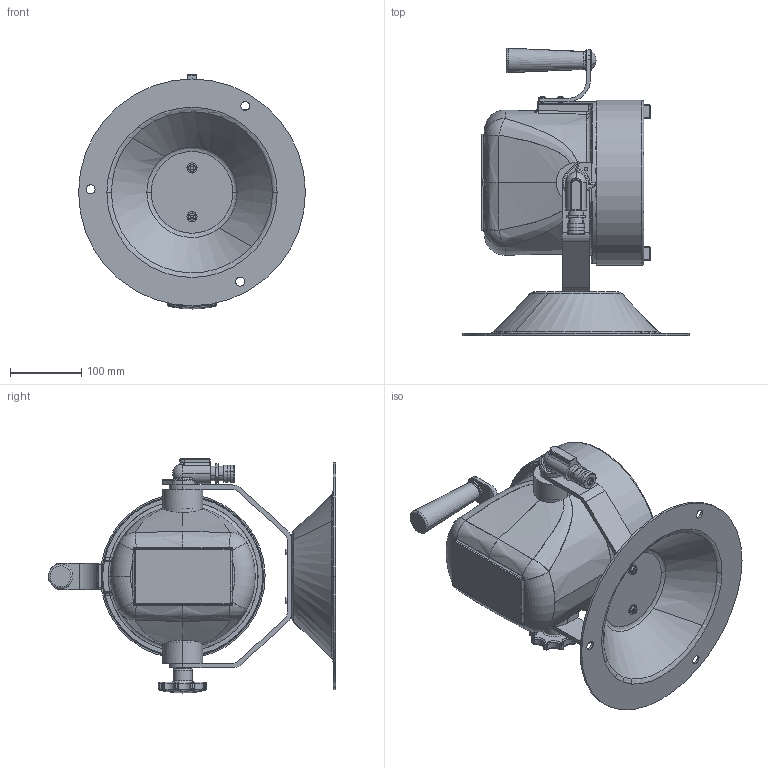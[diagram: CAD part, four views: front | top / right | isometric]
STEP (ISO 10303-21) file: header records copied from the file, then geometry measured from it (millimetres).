
FILE_DESCRIPTION (( 'STEP AP214' ), '1' );
FILE_NAME ('EPL-BS-70.STEP', '2016-05-23T13:50:21', ( '' ), ( '' ), 'SwSTEP 2.0', 'SolidWorks 2015', '' );
FILE_SCHEMA (( 'AUTOMOTIVE_DESIGN' ));
Length unit declared in the file: inch
Products named in the file (26): EPL-BS-70 Pipe Elbow; EPL-BS-70 Reflector; flat washer type b regular_ai_Regular FW 0.19; EPL-BS-70 Front Cover; EPL-BS-70 Bulb; Round Base; EPL-BS-70 Light Holder; EPL-BS-70 Square Hole Washer; EPL-BS-70 Light Holder Mount; round head short square neck bolt_ai_RHSSNBOLT 0.5-13x0.75x0.75-N; EPL-BS-70 Ballast; flat washer type b regular_ai_Regular FW 0.4375; EPL-DL-70LED; EPL-BS-70 Handle; EPL-BS-70; flat washer type b regular_ai_Regular FW 0.375; EPL-BS-70 Knob; socket button head cap screw_ai_SBHCSCREW 0.19-32x0.5-HX-N; EPL-BS-70 Handle Mount; true trunnion; EPL-BS-70 Union Washer; EPL-BS-70 Union Rubber Stopper; hex screw_ai_PL-HHMS 0.19-32x0.5625x0.5625-N; EPL-BS-70 Union Cap; EPL-BS-70 Union; machine screw nut hex_ai_MSHXNUT 0.190-32-S-N
Assembly tree (32 placements, depth 2):
  EPL-BS-70
    EPL-DL-70LED
    EPL-BS-70 Ballast
    EPL-BS-70 Light Holder Mount
    EPL-BS-70 Light Holder  x2
    EPL-BS-70 Bulb
    EPL-BS-70 Front Cover
    EPL-BS-70 Reflector
    EPL-BS-70 Pipe Elbow
    EPL-BS-70 Union
    EPL-BS-70 Union Cap
    EPL-BS-70 Union Rubber Stopper
    EPL-BS-70 Union Washer
    true trunnion
    EPL-BS-70 Handle Mount
    socket button head cap screw_ai_SBHCSCREW 0.19-32x0.5-HX-N  x4
    EPL-BS-70 Knob
    flat washer type b regular_ai_Regular FW 0.375
    EPL-BS-70 Handle
    flat washer type b regular_ai_Regular FW 0.4375
    round head short square neck bolt_ai_RHSSNBOLT 0.5-13x0.75x0.75-N
    EPL-BS-70 Square Hole Washer
    Round Base
    flat washer type b regular_ai_Regular FW 0.19  x2
    machine screw nut hex_ai_MSHXNUT 0.190-32-S-N  x2
    hex screw_ai_PL-HHMS 0.19-32x0.5625x0.5625-N  x2
Bounding box: 319.09 x 404.31 x 329.31 mm (x, y, z)
Volume: 2849178.4 mm3; surface area: 1121415.3 mm2
Topology: 39 solids, 39 shells, 1400 faces, 3350 edges, 1993 vertices
Faces by surface type: plane 476, cylinder 470, torus 174, sphere 108, bspline 106, cone 66
Entity records: 45089 total; most frequent: CARTESIAN_POINT 15798, DIRECTION 6114, ORIENTED_EDGE 5672, EDGE_CURVE 2836, AXIS2_PLACEMENT_3D 2509, VERTEX_POINT 1715, CIRCLE 1364, EDGE_LOOP 1323
